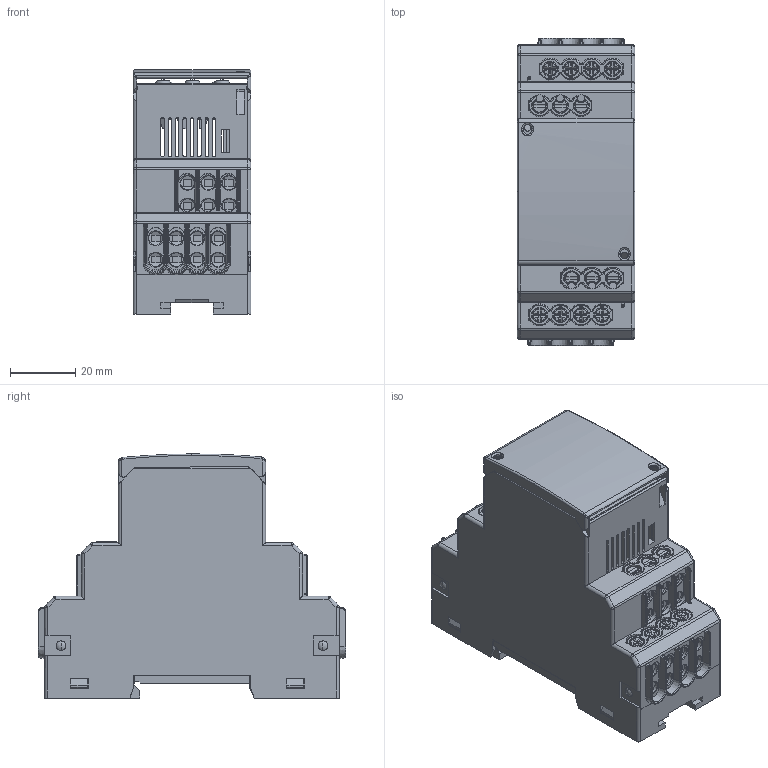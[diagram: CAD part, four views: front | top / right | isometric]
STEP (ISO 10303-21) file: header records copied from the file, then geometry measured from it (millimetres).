
FILE_DESCRIPTION (( 'STEP AP214' ), '1' );
FILE_NAME ('IR425.STEP', '2012-09-24T05:39:43', ( 'User' ), ( 'Bender' ), 'SwSTEP 2.0', 'SolidWorks 2012', '' );
FILE_SCHEMA (( 'AUTOMOTIVE_DESIGN' ));
Length unit declared in the file: millimetre
Products named in the file (17): IR425; 370033; l119001_AHM1R00308; a34008603; X4; P301; PP306; S302; X3; X301; Bender-Logo neu 37; 370109_PTR; l118400; Oberteil_z151795.10__36_V1; Plomb_z151797.04__36mm_2TE; Unterteil_z151796.02__36mm_2TE
Assembly tree (24 placements, depth 3):
  IR425
    l119001_AHM1R00308
      370033
    a34008603
      a34008603
      P301
      PP306  x6
      S302
      X301
    l118400
      Bender-Logo neu 37  x2
      370109_PTR  x4
    Oberteil_z151795.10__36_V1
    Plomb_z151797.04__36mm_2TE
    Unterteil_z151796.02__36mm_2TE
    370033
  X4
  X3
Bounding box: 36 x 94 x 74.58 mm (x, y, z)
Volume: 61535.7 mm3; surface area: 68522.8 mm2
Topology: 25 solids, 33 shells, 4343 faces, 11579 edges, 7346 vertices
Faces by surface type: plane 2705, cylinder 1019, cone 249, bspline 247, torus 81, sphere 42
Entity records: 106627 total; most frequent: CARTESIAN_POINT 25938, ORIENTED_EDGE 14888, DIRECTION 13613, EDGE_CURVE 7444, LINE 5107, VECTOR 5107, VERTEX_POINT 4740, AXIS2_PLACEMENT_3D 4253
